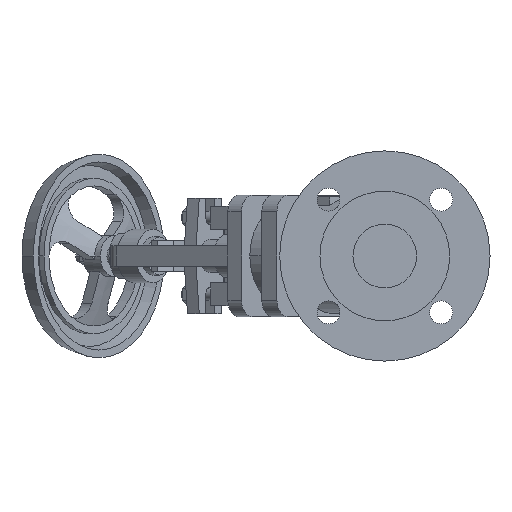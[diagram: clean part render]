
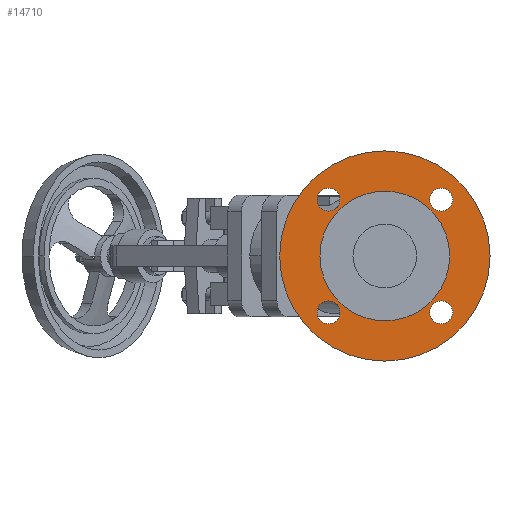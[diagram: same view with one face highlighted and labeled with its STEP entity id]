
A CAD part, left-side view. The second image highlights one B-rep face of the part: STEP entity #14710.
In plain terms, the highlighted planar face has unit normal (-1, 0, 0).
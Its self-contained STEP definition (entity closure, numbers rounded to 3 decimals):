
#3550=CARTESIAN_POINT('',(3.78,-50.89,0.));
#3560=VERTEX_POINT('',#3550);
#3720=CARTESIAN_POINT('',(3.78,50.89,0.));
#3730=VERTEX_POINT('',#3720);
#3760=CARTESIAN_POINT('',(3.78,0.,0.));
#3770=DIRECTION('',(-1.,0.,0.));
#3780=DIRECTION('',(0.,1.,0.));
#3790=AXIS2_PLACEMENT_3D('',#3760,#3770,#3780);
#3800=CIRCLE('',#3790,50.89);
#3810=EDGE_CURVE('',#3560,#3730,#3800,.T.);
#6250=CARTESIAN_POINT('',(3.78,0.,82.5));
#6260=VERTEX_POINT('',#6250);
#6440=CARTESIAN_POINT('',(3.78,0.,-82.5));
#6450=VERTEX_POINT('',#6440);
#6480=CARTESIAN_POINT('',(3.78,0.,0.));
#6490=DIRECTION('',(1.,0.,0.));
#6500=DIRECTION('',(0.,0.,-1.));
#6510=AXIS2_PLACEMENT_3D('',#6480,#6490,#6500);
#6520=CIRCLE('',#6510,82.5);
#6530=EDGE_CURVE('',#6260,#6450,#6520,.T.);
#6740=CARTESIAN_POINT('',(3.78,44.194,-35.194));
#6750=VERTEX_POINT('',#6740);
#6930=CARTESIAN_POINT('',(3.78,44.194,-53.194));
#6940=VERTEX_POINT('',#6930);
#6970=CARTESIAN_POINT('',(3.78,44.194,-44.194));
#6980=DIRECTION('',(-1.,0.,0.));
#6990=DIRECTION('',(0.,0.,-1.));
#7000=AXIS2_PLACEMENT_3D('',#6970,#6980,#6990);
#7010=CIRCLE('',#7000,9.);
#7020=EDGE_CURVE('',#6750,#6940,#7010,.T.);
#7230=CARTESIAN_POINT('',(3.78,-44.194,-35.194));
#7240=VERTEX_POINT('',#7230);
#7290=CARTESIAN_POINT('',(3.78,-44.194,-44.194));
#7300=DIRECTION('',(-1.,0.,0.));
#7310=DIRECTION('',(0.,0.,-1.));
#7320=AXIS2_PLACEMENT_3D('',#7290,#7300,#7310);
#7330=CIRCLE('',#7320,9.);
#7340=CARTESIAN_POINT('',(3.78,-44.194,-53.194));
#7350=VERTEX_POINT('',#7340);
#7360=EDGE_CURVE('',#7350,#7240,#7330,.T.);
#7720=CARTESIAN_POINT('',(3.78,-44.194,53.194));
#7730=VERTEX_POINT('',#7720);
#7780=CARTESIAN_POINT('',(3.78,-44.194,44.194));
#7790=DIRECTION('',(-1.,0.,0.));
#7800=DIRECTION('',(0.,0.,-1.));
#7810=AXIS2_PLACEMENT_3D('',#7780,#7790,#7800);
#7820=CIRCLE('',#7810,9.);
#7830=CARTESIAN_POINT('',(3.78,-44.194,35.194));
#7840=VERTEX_POINT('',#7830);
#7850=EDGE_CURVE('',#7840,#7730,#7820,.T.);
#8210=CARTESIAN_POINT('',(3.78,44.194,53.194));
#8220=VERTEX_POINT('',#8210);
#8400=CARTESIAN_POINT('',(3.78,44.194,35.194));
#8410=VERTEX_POINT('',#8400);
#8440=CARTESIAN_POINT('',(3.78,44.194,44.194));
#8450=DIRECTION('',(-1.,0.,0.));
#8460=DIRECTION('',(0.,0.,-1.));
#8470=AXIS2_PLACEMENT_3D('',#8440,#8450,#8460);
#8480=CIRCLE('',#8470,9.);
#8490=EDGE_CURVE('',#8220,#8410,#8480,.T.);
#14360=CARTESIAN_POINT('',(3.78,0.,0.));
#14370=DIRECTION('',(1.,0.,0.));
#14380=DIRECTION('',(0.,0.,-1.));
#14390=AXIS2_PLACEMENT_3D('',#14360,#14370,#14380);
#14400=PLANE('',#14390);
#14410=EDGE_CURVE('',#8410,#8220,#8480,.T.);
#14420=ORIENTED_EDGE('',*,*,#14410,.F.);
#14430=ORIENTED_EDGE('',*,*,#8490,.F.);
#14440=EDGE_LOOP('',(#14430,#14420));
#14450=FACE_BOUND('',#14440,.T.);
#14460=EDGE_CURVE('',#7730,#7840,#7820,.T.);
#14470=ORIENTED_EDGE('',*,*,#14460,.F.);
#14480=ORIENTED_EDGE('',*,*,#7850,.F.);
#14490=EDGE_LOOP('',(#14480,#14470));
#14500=FACE_BOUND('',#14490,.T.);
#14510=EDGE_CURVE('',#7240,#7350,#7330,.T.);
#14520=ORIENTED_EDGE('',*,*,#14510,.F.);
#14530=ORIENTED_EDGE('',*,*,#7360,.F.);
#14540=EDGE_LOOP('',(#14530,#14520));
#14550=FACE_BOUND('',#14540,.T.);
#14560=EDGE_CURVE('',#6940,#6750,#7010,.T.);
#14570=ORIENTED_EDGE('',*,*,#14560,.F.);
#14580=ORIENTED_EDGE('',*,*,#7020,.F.);
#14590=EDGE_LOOP('',(#14580,#14570));
#14600=FACE_BOUND('',#14590,.T.);
#14610=EDGE_CURVE('',#6450,#6260,#6520,.T.);
#14620=ORIENTED_EDGE('',*,*,#14610,.F.);
#14630=ORIENTED_EDGE('',*,*,#6530,.F.);
#14640=EDGE_LOOP('',(#14630,#14620));
#14650=FACE_OUTER_BOUND('',#14640,.T.);
#14660=EDGE_CURVE('',#3730,#3560,#3800,.T.);
#14670=ORIENTED_EDGE('',*,*,#14660,.F.);
#14680=ORIENTED_EDGE('',*,*,#3810,.F.);
#14690=EDGE_LOOP('',(#14680,#14670));
#14700=FACE_BOUND('',#14690,.T.);
#14710=ADVANCED_FACE('',(#14450,#14500,#14550,#14600,#14650,#14700),
#14400,.F.);
